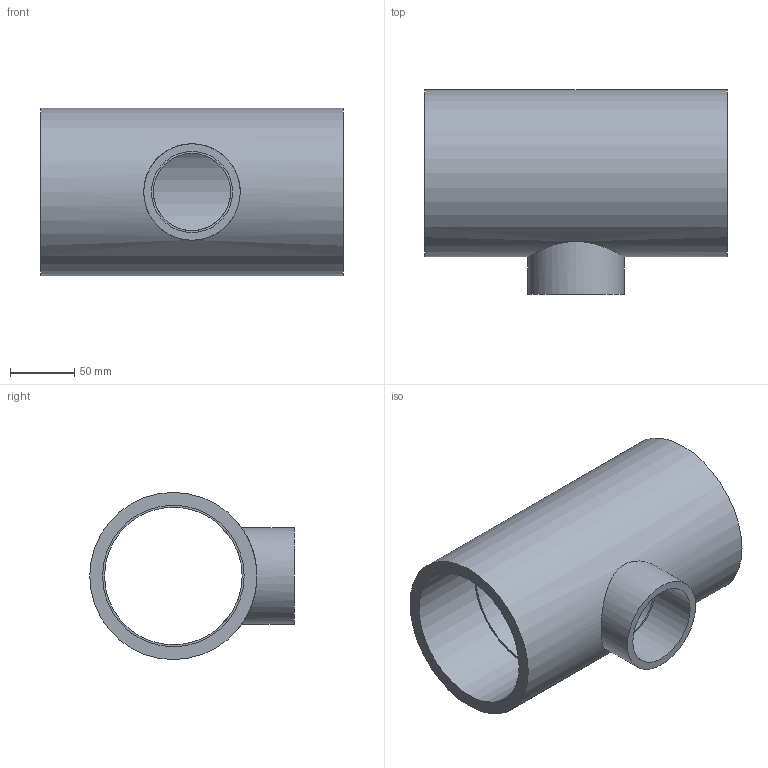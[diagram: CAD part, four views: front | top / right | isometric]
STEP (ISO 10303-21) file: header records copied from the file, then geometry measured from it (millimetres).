
FILE_DESCRIPTION(/* description */ ('PVC ti a 90° ridotto incollaggio metrico'),/* implementation_level */ '2;1');
FILE_NAME(/* name */ 'C:\Users\POLYPIPE\Desktop\DATASET INVENTOR\LIBRERIA EFFAST\RACCORDI 3DxWEB\RDR\3D_RDRTRD\3D_RDRTRD110G.stp',/* time_stamp */ '2018-01-19T15:49:28+01:00',/* author */ ('POLYPIPE'),/* organization */ ('Polypipe Italia s.r.l.'),/* preprocessor_version */ 'ST-DEVELOPER v16.1',/* originating_system */ 'Autodesk Inventor 2016',/* authorisation */ '');
FILE_SCHEMA (('CONFIG_CONTROL_DESIGN'));
Length unit declared in the file: millimetre
Products named in the file (1): 3D_RDRTRD
Bounding box: 235 x 159 x 130 mm (x, y, z)
Volume: 952744.1 mm3; surface area: 195758.5 mm2
Topology: 1 solids, 1 shells, 13 faces, 23 edges, 16 vertices
Faces by surface type: cylinder 7, plane 6
Full cylindrical faces by diameter (mm): 60 x1, 63 x1, 75 x1, 107 x1, 110 x2, 130 x1
Entity records: 430 total; most frequent: CARTESIAN_POINT 172, DIRECTION 52, EDGE_LOOP 28, ORIENTED_EDGE 28, AXIS2_PLACEMENT_3D 26, FACE_BOUND 15, VERTEX_POINT 14, EDGE_CURVE 14
